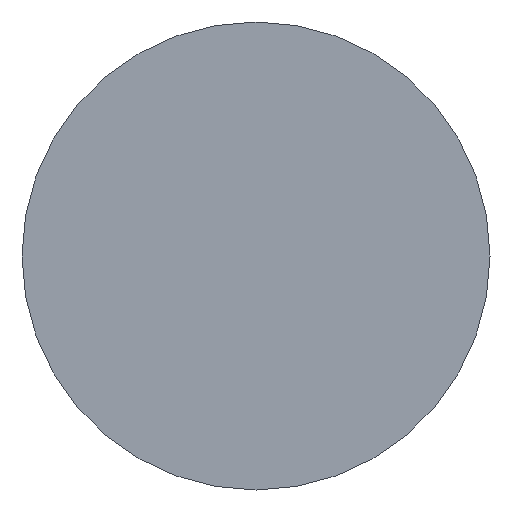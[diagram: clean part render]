
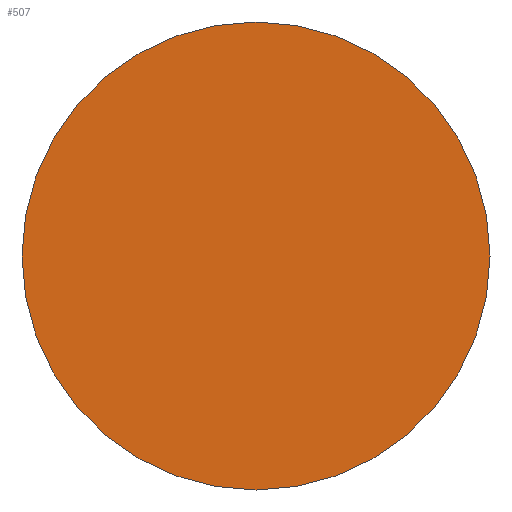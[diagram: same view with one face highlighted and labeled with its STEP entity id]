
A CAD part, front view. The second image highlights one B-rep face of the part: STEP entity #507.
In plain terms, the highlighted planar face has unit normal (0, -1, 0).
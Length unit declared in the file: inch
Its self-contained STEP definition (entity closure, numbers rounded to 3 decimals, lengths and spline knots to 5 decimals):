
#10 = VERTEX_POINT ( 'NONE', #119 ) ;
#30 = CIRCLE ( 'NONE', #226, 1. ) ;
#35 = DIRECTION ( 'NONE',  ( 0., 0., -1. ) ) ;
#45 = CARTESIAN_POINT ( 'NONE',  ( 0., -0.04, 0. ) ) ;
#56 = CARTESIAN_POINT ( 'NONE',  ( 0., -0.04, 0. ) ) ;
#57 = EDGE_CURVE ( 'NONE', #10, #381, #232, .T. ) ;
#78 = DIRECTION ( 'NONE',  ( 0., -1., 0. ) ) ;
#92 = DIRECTION ( 'NONE',  ( 0., 0., -1. ) ) ;
#95 = FACE_OUTER_BOUND ( 'NONE', #296, .T. ) ;
#108 = ORIENTED_EDGE ( 'NONE', *, *, #162, .T. ) ;
#115 = CARTESIAN_POINT ( 'NONE',  ( 0., -0.04, 0. ) ) ;
#119 = CARTESIAN_POINT ( 'NONE',  ( 0., -0.04, -1. ) ) ;
#162 = EDGE_CURVE ( 'NONE', #381, #10, #30, .T. ) ;
#179 = DIRECTION ( 'NONE',  ( 0., -1., 0. ) ) ;
#226 = AXIS2_PLACEMENT_3D ( 'NONE', #115, #78, #433 ) ;
#232 = CIRCLE ( 'NONE', #300, 1. ) ;
#256 = ORIENTED_EDGE ( 'NONE', *, *, #57, .T. ) ;
#293 = AXIS2_PLACEMENT_3D ( 'NONE', #56, #179, #92 ) ;
#296 = EDGE_LOOP ( 'NONE', ( #108, #256 ) ) ;
#299 = PLANE ( 'NONE',  #293 ) ;
#300 = AXIS2_PLACEMENT_3D ( 'NONE', #45, #526, #35 ) ;
#304 = CARTESIAN_POINT ( 'NONE',  ( 0., -0.04, 1. ) ) ;
#381 = VERTEX_POINT ( 'NONE', #304 ) ;
#433 = DIRECTION ( 'NONE',  ( 0., 0., -1. ) ) ;
#507 = ADVANCED_FACE ( 'NONE', ( #95 ), #299, .T. ) ;
#526 = DIRECTION ( 'NONE',  ( 0., -1., 0. ) ) ;
